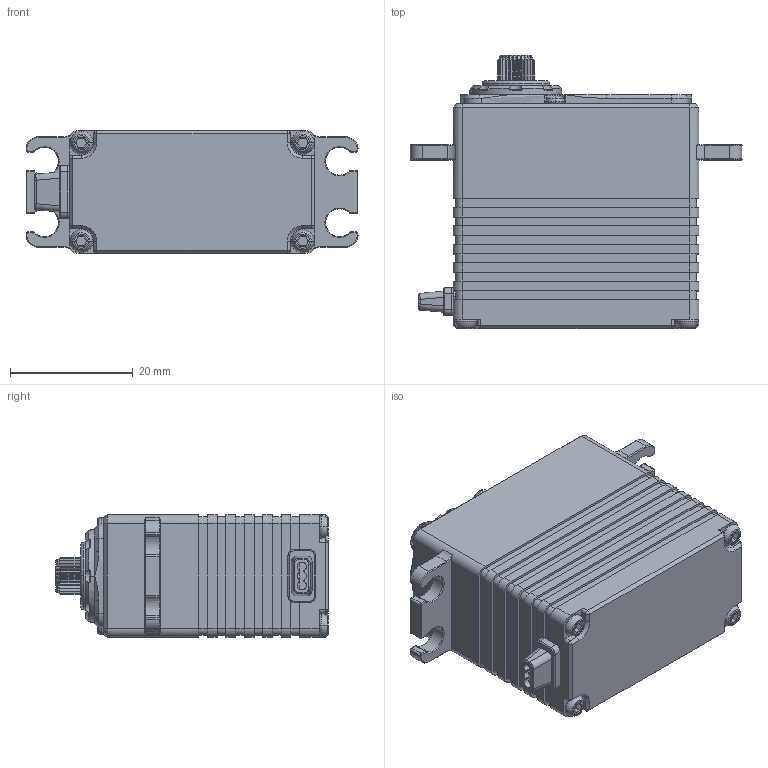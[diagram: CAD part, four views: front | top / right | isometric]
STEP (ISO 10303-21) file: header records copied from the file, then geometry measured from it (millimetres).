
FILE_DESCRIPTION((''),'2;1');
FILE_NAME('DDJ-STDCAR8-A81F-AGF','2023-12-22T',('Administrator'),(''),'PRO/ENGINEER BY PARAMETRIC TECHNOLOGY CORPORATION, 2010280','PRO/ENGINEER BY PARAMETRIC TECHNOLOGY CORPORATION, 2010280','');
FILE_SCHEMA(('CONFIG_CONTROL_DESIGN','SHAPE_APPEARANCE_LAYERS_GROUPS'));
Length unit declared in the file: millimetre
Products named in the file (1): DDJ-STDCAR8-A81F-AGF
Bounding box: 54 x 44.4 x 20 mm (x, y, z)
Volume: 30446.1 mm3; surface area: 7584.3 mm2
Topology: 1 solids, 1 shells, 797 faces, 2036 edges, 1256 vertices
Faces by surface type: cylinder 298, plane 287, cone 106, torus 78, bspline 16, sphere 12
Entity records: 34531 total; most frequent: CARTESIAN_POINT 8032, DIRECTION 4157, ORIENTED_EDGE 4044, PRESENTATION_STYLE_ASSIGNMENT 2108, STYLED_ITEM 2023, CURVE_STYLE 2022, EDGE_CURVE 2022, AXIS2_PLACEMENT_3D 1564
